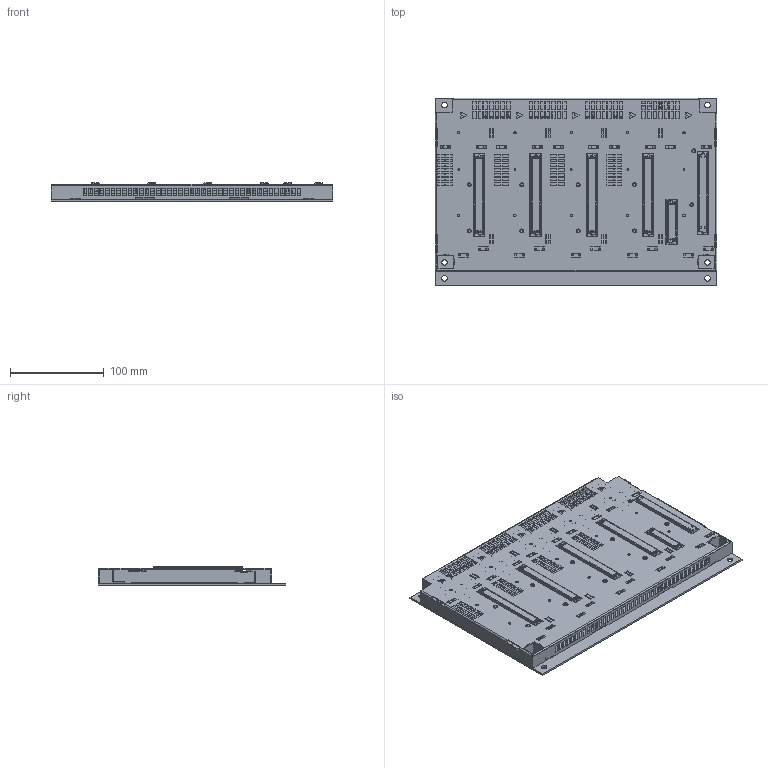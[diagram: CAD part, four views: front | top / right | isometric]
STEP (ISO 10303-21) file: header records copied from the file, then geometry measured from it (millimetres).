
FILE_DESCRIPTION (( 'STEP AP203' ), '1' );
FILE_NAME ('extern3d_09-402-041_MDM041_20110329.STEP', '2011-03-29T11:26:21', ( 'Anwender' ), ( 'SIGMATEK GMBH & CO KG' ), 'SwSTEP 2.0', 'SolidWorks 2009', '' );
FILE_SCHEMA (( 'CONFIG_CONTROL_DESIGN' ));
Products named in the file (1): extern3d_09-402-041_MDM041_20110329
Bounding box: 300 x 200 x 19.6 mm (x, y, z)
Volume: 350106.6 mm3; surface area: 402200.3 mm2
Topology: 61 solids, 61 shells, 4045 faces, 10987 edges, 7131 vertices
Faces by surface type: plane 2735, cylinder 940, cone 182, bspline 104, torus 84
Entity records: 131810 total; most frequent: CARTESIAN_POINT 26750, ORIENTED_EDGE 21962, DIRECTION 21273, EDGE_CURVE 10981, LINE 8253, VECTOR 8253, VERTEX_POINT 7131, AXIS2_PLACEMENT_3D 6510
